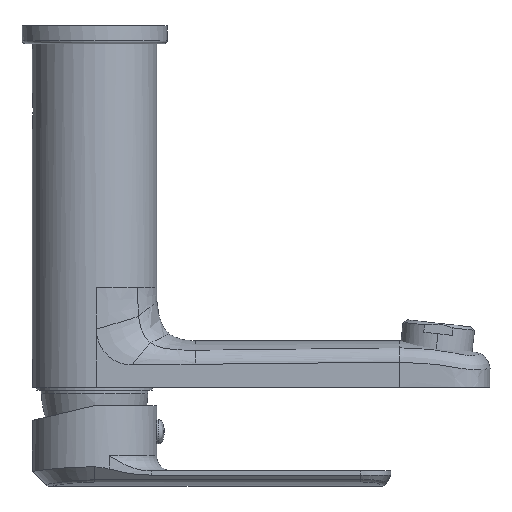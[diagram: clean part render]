
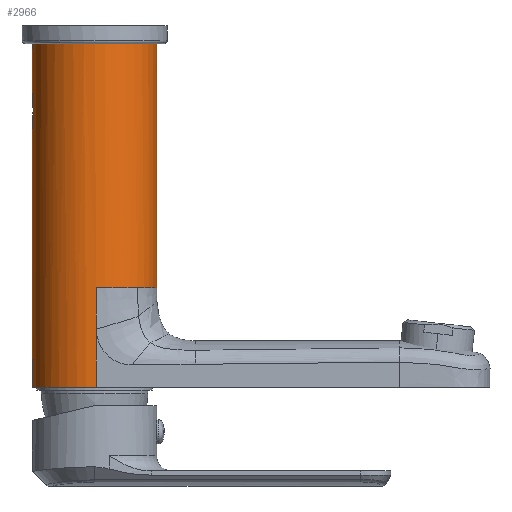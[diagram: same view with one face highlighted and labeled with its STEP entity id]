
A CAD part, front view. The second image highlights one B-rep face of the part: STEP entity #2966.
In plain terms, the highlighted cylindrical face has radius 20.75 mm (diameter 41.5 mm), a partial arc.
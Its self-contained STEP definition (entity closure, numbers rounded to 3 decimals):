
#1918=CARTESIAN_POINT('',(-0.029,0.03,
73.228));
#1919=DIRECTION('',(0.,0.,-1.));
#1920=DIRECTION('',(1.,-0.001,0.));
#1921=AXIS2_PLACEMENT_3D('',#1918,#1919,#1920);
#1938=CARTESIAN_POINT('',(-20.779,-0.03,
56.728));
#1939=CARTESIAN_POINT('',(-20.779,-0.027,
56.728));
#1940=CARTESIAN_POINT('',(-20.779,-0.02,
56.728));
#1941=CARTESIAN_POINT('',(-20.779,-0.01,
56.728));
#1942=CARTESIAN_POINT('',(-20.779,-0.003,
56.728));
#1943=CARTESIAN_POINT('',(-20.779,0.,
56.728));
#1945=DIRECTION('',(0.,0.,1.));
#1946=VECTOR('',#1945,16.5);
#1947=CARTESIAN_POINT('',(-20.779,0.,
56.728));
#1948=LINE('',#1947,#1946);
#1949=DIRECTION('',(0.,0.,1.));
#1950=VECTOR('',#1949,86.403);
#1951=CARTESIAN_POINT('',(-20.779,0.,-41.674));
#1952=LINE('',#1951,#1950);
#1953=CARTESIAN_POINT('',(-20.779,0.,
44.728));
#1954=CARTESIAN_POINT('',(-20.779,-0.003,
44.728));
#1955=CARTESIAN_POINT('',(-20.779,-0.01,
44.728));
#1956=CARTESIAN_POINT('',(-20.779,-0.02,
44.728));
#1957=CARTESIAN_POINT('',(-20.779,-0.027,
44.728));
#1958=CARTESIAN_POINT('',(-20.779,-0.03,
44.728));
#1960=CARTESIAN_POINT('',(-20.779,-0.03,
44.728));
#1961=CARTESIAN_POINT('',(-20.779,-0.103,
44.729));
#1962=CARTESIAN_POINT('',(-20.778,-0.251,
44.744));
#1963=CARTESIAN_POINT('',(-20.773,-0.481,
44.813));
#1964=CARTESIAN_POINT('',(-20.766,-0.716,
44.934));
#1965=CARTESIAN_POINT('',(-20.756,-0.956,
45.114));
#1966=CARTESIAN_POINT('',(-20.743,-1.198,
45.356));
#1967=CARTESIAN_POINT('',(-20.728,-1.435,
45.658));
#1968=CARTESIAN_POINT('',(-20.71,-1.664,
46.022));
#1969=CARTESIAN_POINT('',(-20.691,-1.883,
46.451));
#1970=CARTESIAN_POINT('',(-20.671,-2.092,
46.949));
#1971=CARTESIAN_POINT('',(-20.65,-2.285,
47.521));
#1972=CARTESIAN_POINT('',(-20.629,-2.46,
48.174));
#1973=CARTESIAN_POINT('',(-20.611,-2.607,
48.91));
#1974=CARTESIAN_POINT('',(-20.596,-2.722,
49.75));
#1975=CARTESIAN_POINT('',(-20.587,-2.787,
50.711));
#1976=CARTESIAN_POINT('',(-20.588,-2.778,
51.731));
#1977=CARTESIAN_POINT('',(-20.6,-2.695,
52.653));
#1978=CARTESIAN_POINT('',(-20.617,-2.558,
53.454));
#1979=CARTESIAN_POINT('',(-20.639,-2.38,
54.153));
#1980=CARTESIAN_POINT('',(-20.663,-2.167,
54.756));
#1981=CARTESIAN_POINT('',(-20.687,-1.929,
55.269));
#1982=CARTESIAN_POINT('',(-20.71,-1.67,
55.697));
#1983=CARTESIAN_POINT('',(-20.731,-1.396,
56.045));
#1984=CARTESIAN_POINT('',(-20.748,-1.113,
56.317));
#1985=CARTESIAN_POINT('',(-20.762,-0.832,
56.512));
#1986=CARTESIAN_POINT('',(-20.771,-0.56,
56.641));
#1987=CARTESIAN_POINT('',(-20.777,-0.293,
56.714));
#1988=CARTESIAN_POINT('',(-20.779,-0.117,
56.729));
#1989=CARTESIAN_POINT('',(-20.779,-0.03,
56.728));
#2078=DIRECTION('',(0.,0.,1.));
#2079=VECTOR('',#2078,81.509);
#2080=CARTESIAN_POINT('',(20.721,0.,
-8.281));
#2081=LINE('',#2080,#2079);
#2117=CARTESIAN_POINT('',(-0.029,0.03,
-41.674));
#2118=DIRECTION('',(0.,0.,1.));
#2119=DIRECTION('',(-1.,-0.001,0.));
#2120=AXIS2_PLACEMENT_3D('',#2117,#2118,#2119);
#2132=DIRECTION('',(0.,0.,1.));
#2133=VECTOR('',#2132,19.379);
#2134=CARTESIAN_POINT('',(0.561,-20.711,
-41.674));
#2135=LINE('',#2134,#2133);
#2183=CARTESIAN_POINT('',(0.56,-20.712,
-22.295));
#2184=CARTESIAN_POINT('',(0.56,-20.712,
-22.271));
#2185=CARTESIAN_POINT('',(0.561,-20.711,
-22.246));
#2186=CARTESIAN_POINT('',(0.561,-20.711,
-22.222));
#2231=CARTESIAN_POINT('',(-0.029,0.03,
-8.28));
#2232=DIRECTION('',(0.,0.,1.));
#2233=DIRECTION('',(0.688,-0.726,0.));
#2234=AXIS2_PLACEMENT_3D('',#2231,#2232,#2233);
#2241=DIRECTION('',(0.,0.,1.));
#2242=VECTOR('',#2241,13.942);
#2243=CARTESIAN_POINT('',(0.561,-20.711,
-22.222));
#2244=LINE('',#2243,#2242);
#2245=CARTESIAN_POINT('',(-0.029,0.03,
-8.279));
#2246=DIRECTION('',(0.,0.,1.));
#2247=DIRECTION('',(0.028,-1.,0.));
#2248=AXIS2_PLACEMENT_3D('',#2245,#2246,#2247);
#2784=CARTESIAN_POINT('',(20.721,0.,
73.228));
#2785=CARTESIAN_POINT('',(-20.779,0.,
73.228));
#2786=VERTEX_POINT('',#2784);
#2787=VERTEX_POINT('',#2785);
#2788=VERTEX_POINT('',#1938);
#2789=VERTEX_POINT('',#1943);
#2790=CARTESIAN_POINT('',(20.721,0.,
-8.281));
#2791=VERTEX_POINT('',#2790);
#2792=CARTESIAN_POINT('',(14.24,-15.035,
-8.28));
#2793=VERTEX_POINT('',#2792);
#2794=CARTESIAN_POINT('',(0.561,-20.711,
-8.279));
#2795=VERTEX_POINT('',#2794);
#2796=CARTESIAN_POINT('',(0.561,-20.711,
-22.222));
#2797=VERTEX_POINT('',#2796);
#2798=VERTEX_POINT('',#2183);
#2799=CARTESIAN_POINT('',(0.561,-20.711,
-41.674));
#2800=VERTEX_POINT('',#2799);
#2801=CARTESIAN_POINT('',(-20.779,0.,-41.674));
#2802=VERTEX_POINT('',#2801);
#2803=CARTESIAN_POINT('',(-20.779,0.,
44.728));
#2804=VERTEX_POINT('',#2803);
#2805=VERTEX_POINT('',#1958);
#2934=CARTESIAN_POINT('',(-0.029,0.03,-75.));
#2935=DIRECTION('',(0.,0.,-1.));
#2936=DIRECTION('',(1.,0.,0.));
#2937=AXIS2_PLACEMENT_3D('',#2934,#2935,#2936);
#2938=CYLINDRICAL_SURFACE('',#2937,20.75);
#2940=ORIENTED_EDGE('',*,*,#2939,.T.);
#2942=ORIENTED_EDGE('',*,*,#2941,.T.);
#2943=ORIENTED_EDGE('',*,*,#2922,.F.);
#2945=ORIENTED_EDGE('',*,*,#2944,.F.);
#2947=ORIENTED_EDGE('',*,*,#2946,.F.);
#2949=ORIENTED_EDGE('',*,*,#2948,.F.);
#2951=ORIENTED_EDGE('',*,*,#2950,.F.);
#2953=ORIENTED_EDGE('',*,*,#2952,.F.);
#2955=ORIENTED_EDGE('',*,*,#2954,.F.);
#2957=ORIENTED_EDGE('',*,*,#2956,.F.);
#2959=ORIENTED_EDGE('',*,*,#2958,.T.);
#2961=ORIENTED_EDGE('',*,*,#2960,.T.);
#2963=ORIENTED_EDGE('',*,*,#2962,.T.);
#2964=EDGE_LOOP('',(#2940,#2942,#2943,#2945,#2947,#2949,#2951,#2953,#2955,#2957,
#2959,#2961,#2963));
#2965=FACE_OUTER_BOUND('',#2964,.F.);
#1922=CIRCLE('',#1921,20.75);
#1944=B_SPLINE_CURVE_WITH_KNOTS('',3,(#1938,#1939,#1940,#1941,#1942,#1943),
.UNSPECIFIED.,.F.,.F.,(4,1,1,4),(0.,0.333,0.667,1.),
.UNSPECIFIED.);
#1959=B_SPLINE_CURVE_WITH_KNOTS('',3,(#1953,#1954,#1955,#1956,#1957,#1958),
.UNSPECIFIED.,.F.,.F.,(4,1,1,4),(0.,0.333,0.667,1.),
.UNSPECIFIED.);
#1990=B_SPLINE_CURVE_WITH_KNOTS('',3,(#1960,#1961,#1962,#1963,#1964,#1965,#1966,
#1967,#1968,#1969,#1970,#1971,#1972,#1973,#1974,#1975,#1976,#1977,#1978,#1979,
#1980,#1981,#1982,#1983,#1984,#1985,#1986,#1987,#1988,#1989),.UNSPECIFIED.,.F.,
.F.,(4,1,1,1,1,1,1,1,1,1,1,1,1,1,1,1,1,1,1,1,1,1,1,1,1,1,1,4),(0.,
0.037,0.074,0.111,0.148,
0.185,0.222,0.259,0.296,
0.333,0.37,0.407,0.444,
0.481,0.519,0.556,0.593,
0.63,0.667,0.704,0.741,
0.778,0.815,0.852,0.889,
0.926,0.963,1.),.UNSPECIFIED.);
#2121=CIRCLE('',#2120,20.75);
#2187=B_SPLINE_CURVE_WITH_KNOTS('',3,(#2183,#2184,#2185,#2186),.UNSPECIFIED.,
.F.,.F.,(4,4),(0.,1.),.UNSPECIFIED.);
#2235=CIRCLE('',#2234,20.75);
#2249=CIRCLE('',#2248,20.75);
#2922=EDGE_CURVE('',#2786,#2787,#1922,.T.);
#2939=EDGE_CURVE('',#2788,#2789,#1944,.T.);
#2941=EDGE_CURVE('',#2789,#2787,#1948,.T.);
#2944=EDGE_CURVE('',#2791,#2786,#2081,.T.);
#2946=EDGE_CURVE('',#2793,#2791,#2235,.T.);
#2948=EDGE_CURVE('',#2795,#2793,#2249,.T.);
#2950=EDGE_CURVE('',#2797,#2795,#2244,.T.);
#2952=EDGE_CURVE('',#2798,#2797,#2187,.T.);
#2954=EDGE_CURVE('',#2800,#2798,#2135,.T.);
#2956=EDGE_CURVE('',#2802,#2800,#2121,.T.);
#2958=EDGE_CURVE('',#2802,#2804,#1952,.T.);
#2960=EDGE_CURVE('',#2804,#2805,#1959,.T.);
#2962=EDGE_CURVE('',#2805,#2788,#1990,.T.);
#2966=ADVANCED_FACE('',(#2965),#2938,.T.);
